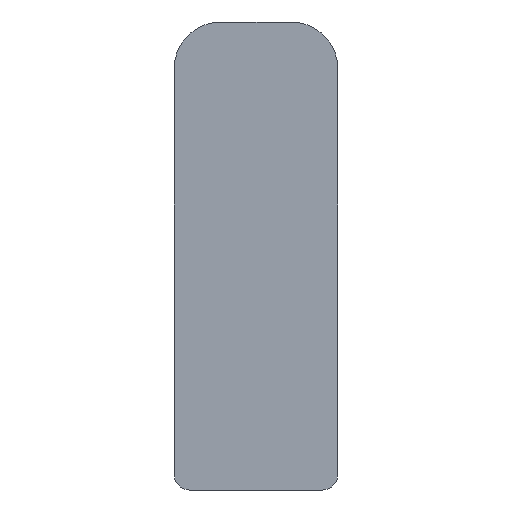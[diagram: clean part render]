
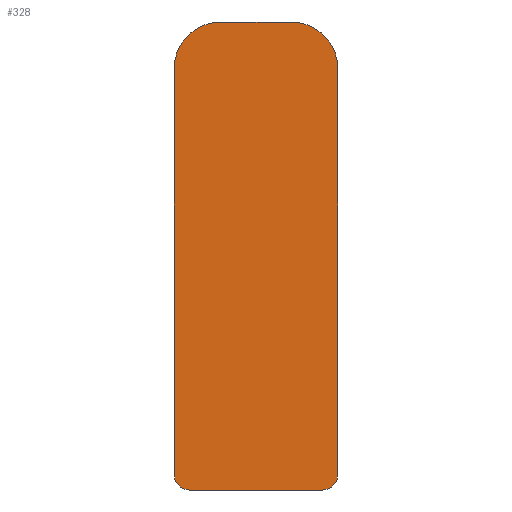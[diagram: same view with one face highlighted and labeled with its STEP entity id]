
A CAD part, left-side view. The second image highlights one B-rep face of the part: STEP entity #328.
In plain terms, the highlighted planar face has unit normal (-1, 0, 0).
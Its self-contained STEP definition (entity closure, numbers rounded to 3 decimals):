
#3 = CIRCLE ( 'NONE', #156, 3. ) ;
#12 = VECTOR ( 'NONE', #299, 1000. ) ;
#29 = FACE_OUTER_BOUND ( 'NONE', #78, .T. ) ;
#32 = CIRCLE ( 'NONE', #157, 1. ) ;
#40 = VECTOR ( 'NONE', #271, 1000. ) ;
#41 = LINE ( 'NONE', #272, #40 ) ;
#48 = CIRCLE ( 'NONE', #154, 3. ) ;
#49 = LINE ( 'NONE', #301, #12 ) ;
#52 = VECTOR ( 'NONE', #317, 1000. ) ;
#53 = LINE ( 'NONE', #318, #52 ) ;
#78 = EDGE_LOOP ( 'NONE', ( #92, #93, #94, #95, #96, #97, #98, #99 ) ) ;
#92 = ORIENTED_EDGE ( 'NONE', *, *, #163, .T. ) ;
#93 = ORIENTED_EDGE ( 'NONE', *, *, #167, .T. ) ;
#94 = ORIENTED_EDGE ( 'NONE', *, *, #135, .T. ) ;
#95 = ORIENTED_EDGE ( 'NONE', *, *, #123, .T. ) ;
#96 = ORIENTED_EDGE ( 'NONE', *, *, #126, .T. ) ;
#97 = ORIENTED_EDGE ( 'NONE', *, *, #129, .T. ) ;
#98 = ORIENTED_EDGE ( 'NONE', *, *, #132, .T. ) ;
#99 = ORIENTED_EDGE ( 'NONE', *, *, #134, .T. ) ;
#113 = CIRCLE ( 'NONE', #159, 1. ) ;
#123 = EDGE_CURVE ( 'NONE', #285, #279, #137, .T. ) ;
#126 = EDGE_CURVE ( 'NONE', #279, #288, #113, .T. ) ;
#129 = EDGE_CURVE ( 'NONE', #288, #315, #53, .T. ) ;
#132 = EDGE_CURVE ( 'NONE', #315, #302, #32, .T. ) ;
#134 = EDGE_CURVE ( 'NONE', #302, #297, #49, .T. ) ;
#135 = EDGE_CURVE ( 'NONE', #319, #285, #3, .T. ) ;
#136 = VECTOR ( 'NONE', #224, 1000. ) ;
#137 = LINE ( 'NONE', #230, #136 ) ;
#150 = AXIS2_PLACEMENT_3D ( 'NONE', #238, #237, #236 ) ;
#154 = AXIS2_PLACEMENT_3D ( 'NONE', #284, #283, #281 ) ;
#156 = AXIS2_PLACEMENT_3D ( 'NONE', #298, #296, #295 ) ;
#157 = AXIS2_PLACEMENT_3D ( 'NONE', #308, #307, #305 ) ;
#159 = AXIS2_PLACEMENT_3D ( 'NONE', #327, #326, #325 ) ;
#163 = EDGE_CURVE ( 'NONE', #297, #300, #48, .T. ) ;
#167 = EDGE_CURVE ( 'NONE', #300, #319, #41, .T. ) ;
#224 = DIRECTION ( 'NONE',  ( 0., 0., -1. ) ) ;
#230 = CARTESIAN_POINT ( 'NONE',  ( -456.25, 5.25, 1. ) ) ;
#236 = DIRECTION ( 'NONE',  ( 0., 0., 1. ) ) ;
#237 = DIRECTION ( 'NONE',  ( -1., 0., 0. ) ) ;
#238 = CARTESIAN_POINT ( 'NONE',  ( -456.25, -2.25, 27. ) ) ;
#240 = PLANE ( 'NONE',  #150 ) ;
#242 = CARTESIAN_POINT ( 'NONE',  ( -456.25, 2.25, 30. ) ) ;
#245 = CARTESIAN_POINT ( 'NONE',  ( -456.25, -4.25, 0. ) ) ;
#248 = CARTESIAN_POINT ( 'NONE',  ( -456.25, -5.25, 1. ) ) ;
#249 = CARTESIAN_POINT ( 'NONE',  ( -456.25, -2.25, 30. ) ) ;
#250 = CARTESIAN_POINT ( 'NONE',  ( -456.25, -5.25, 27. ) ) ;
#253 = CARTESIAN_POINT ( 'NONE',  ( -456.25, 4.25, 0. ) ) ;
#255 = CARTESIAN_POINT ( 'NONE',  ( -456.25, 5.25, 27. ) ) ;
#257 = CARTESIAN_POINT ( 'NONE',  ( -456.25, 5.25, 1. ) ) ;
#271 = DIRECTION ( 'NONE',  ( 0., 1., 0. ) ) ;
#272 = CARTESIAN_POINT ( 'NONE',  ( -456.25, -2.25, 30. ) ) ;
#279 = VERTEX_POINT ( 'NONE', #257 ) ;
#281 = DIRECTION ( 'NONE',  ( 0., 0., 1. ) ) ;
#283 = DIRECTION ( 'NONE',  ( -1., 0., 0. ) ) ;
#284 = CARTESIAN_POINT ( 'NONE',  ( -456.25, -2.25, 27. ) ) ;
#285 = VERTEX_POINT ( 'NONE', #255 ) ;
#288 = VERTEX_POINT ( 'NONE', #253 ) ;
#295 = DIRECTION ( 'NONE',  ( 0., 0., -1. ) ) ;
#296 = DIRECTION ( 'NONE',  ( -1., 0., 0. ) ) ;
#297 = VERTEX_POINT ( 'NONE', #250 ) ;
#298 = CARTESIAN_POINT ( 'NONE',  ( -456.25, 2.25, 27. ) ) ;
#299 = DIRECTION ( 'NONE',  ( 0., 0., 1. ) ) ;
#300 = VERTEX_POINT ( 'NONE', #249 ) ;
#301 = CARTESIAN_POINT ( 'NONE',  ( -456.25, -5.25, 1. ) ) ;
#302 = VERTEX_POINT ( 'NONE', #248 ) ;
#305 = DIRECTION ( 'NONE',  ( 0., 0., -1. ) ) ;
#307 = DIRECTION ( 'NONE',  ( -1., 0., 0. ) ) ;
#308 = CARTESIAN_POINT ( 'NONE',  ( -456.25, -4.25, 1. ) ) ;
#315 = VERTEX_POINT ( 'NONE', #245 ) ;
#317 = DIRECTION ( 'NONE',  ( 0., -1., 0. ) ) ;
#318 = CARTESIAN_POINT ( 'NONE',  ( -456.25, -4.25, 0. ) ) ;
#319 = VERTEX_POINT ( 'NONE', #242 ) ;
#325 = DIRECTION ( 'NONE',  ( 0., 0., -1. ) ) ;
#326 = DIRECTION ( 'NONE',  ( -1., 0., 0. ) ) ;
#327 = CARTESIAN_POINT ( 'NONE',  ( -456.25, 4.25, 1. ) ) ;
#328 = ADVANCED_FACE ( 'NONE', ( #29 ), #240, .T. ) ;
